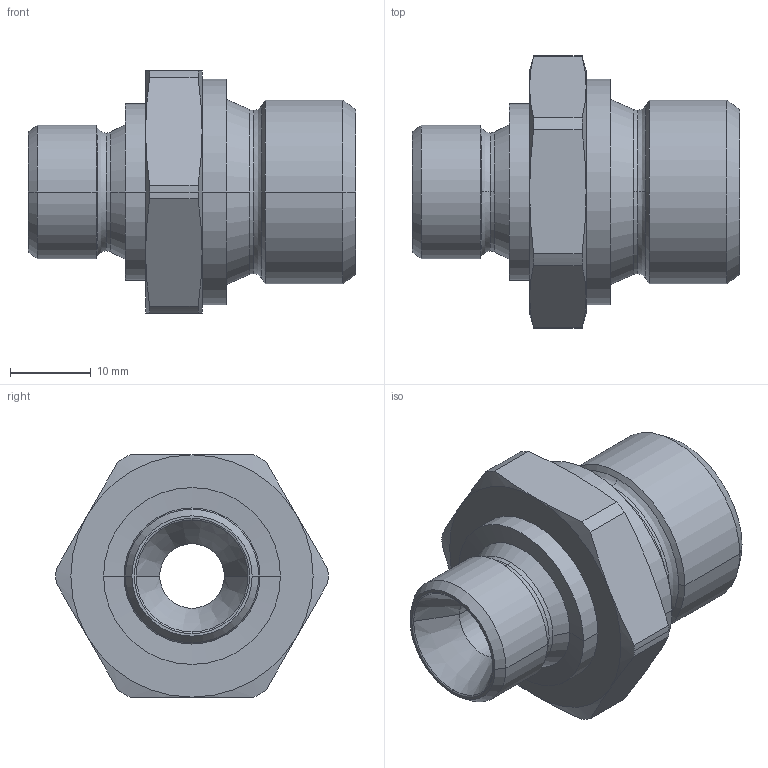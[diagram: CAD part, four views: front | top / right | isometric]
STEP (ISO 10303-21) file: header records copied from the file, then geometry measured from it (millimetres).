
FILE_DESCRIPTION((''),'2;1');
FILE_NAME('300535.stp','2006-09-11T08:16:44',(''),(''),'AutoCAD STEP 2000i','AutoCAD 2000i',', , ');
FILE_SCHEMA(('CONFIG_CONTROL_DESIGN'));
Length unit declared in the file: millimetre
Products named in the file (2): 300535.0; CHIAVE SMUSSATA#0
Assembly tree (1 placements, depth 2):
  300535.0
    CHIAVE SMUSSATA#0
Bounding box: 40.5 x 33.7 x 30 mm (x, y, z)
Volume: 11864 mm3; surface area: 5623.4 mm2
Topology: 1 solids, 1 shells, 76 faces, 178 edges, 106 vertices
Faces by surface type: cone 34, cylinder 20, plane 10, bspline 8, torus 4
Entity records: 2593 total; most frequent: CARTESIAN_POINT 762, DIRECTION 400, ORIENTED_EDGE 356, EDGE_CURVE 178, AXIS2_PLACEMENT_3D 176, VERTEX_POINT 106, CIRCLE 106, EDGE_LOOP 80
